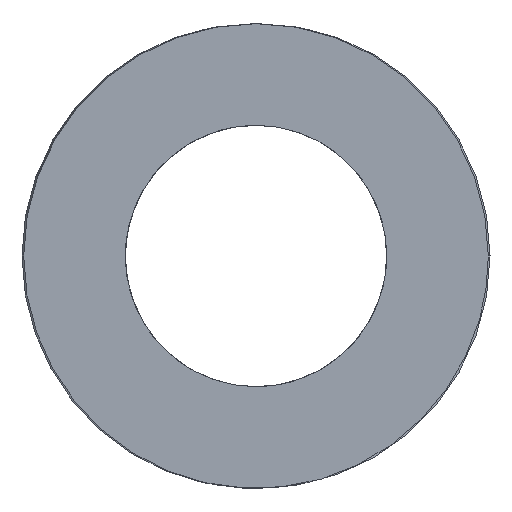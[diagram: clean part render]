
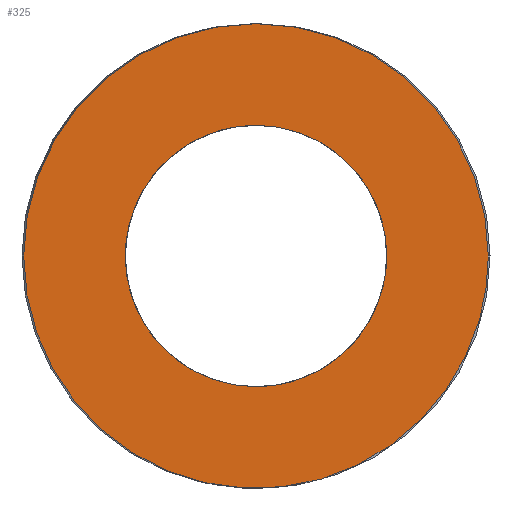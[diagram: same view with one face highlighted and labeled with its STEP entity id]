
A CAD part, left-side view. The second image highlights one B-rep face of the part: STEP entity #325.
In plain terms, the highlighted planar face has unit normal (-1, 0, 0).
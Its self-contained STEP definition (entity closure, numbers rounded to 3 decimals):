
#63=CARTESIAN_POINT('Vertex',(0.,18.75,0.)) ;
#89=CARTESIAN_POINT('Vertex',(0.,-18.75,0.)) ;
#93=CARTESIAN_POINT('Control Point',(0.,18.75,0.)) ;
#94=CARTESIAN_POINT('Control Point',(0.,18.75,-2.945)) ;
#95=CARTESIAN_POINT('Control Point',(0.,18.172,-5.89)) ;
#96=CARTESIAN_POINT('Control Point',(0.,17.015,-8.684)) ;
#97=CARTESIAN_POINT('Control Point',(0.,13.667,-13.667)) ;
#98=CARTESIAN_POINT('Control Point',(0.,8.684,-17.015)) ;
#99=CARTESIAN_POINT('Control Point',(0.,5.89,-18.172)) ;
#100=CARTESIAN_POINT('Control Point',(0.,0.,-19.328)) ;
#101=CARTESIAN_POINT('Control Point',(0.,-5.89,-18.172)) ;
#102=CARTESIAN_POINT('Control Point',(0.,-8.684,-17.015)) ;
#103=CARTESIAN_POINT('Control Point',(0.,-13.667,-13.667)) ;
#104=CARTESIAN_POINT('Control Point',(0.,-17.015,-8.684)) ;
#105=CARTESIAN_POINT('Control Point',(0.,-18.172,-5.89)) ;
#106=CARTESIAN_POINT('Control Point',(0.,-18.75,-2.945)) ;
#107=CARTESIAN_POINT('Control Point',(0.,-18.75,0.)) ;
#121=CARTESIAN_POINT('Axis2P3D Location',(0.,0.,0.)) ;
#256=CARTESIAN_POINT('Axis2P3D Location',(0.,9.375,0.)) ;
#266=CARTESIAN_POINT('Control Point',(0.,0.,-10.55)) ;
#267=CARTESIAN_POINT('Control Point',(0.,0.955,-10.55)) ;
#268=CARTESIAN_POINT('Control Point',(0.,1.909,-10.442)) ;
#269=CARTESIAN_POINT('Control Point',(0.,2.848,-10.226)) ;
#270=CARTESIAN_POINT('Control Point',(0.,4.66,-9.585)) ;
#271=CARTESIAN_POINT('Control Point',(0.,6.283,-8.556)) ;
#272=CARTESIAN_POINT('Control Point',(0.,7.032,-7.952)) ;
#273=CARTESIAN_POINT('Control Point',(0.,8.381,-6.584)) ;
#274=CARTESIAN_POINT('Control Point',(0.,9.391,-4.949)) ;
#275=CARTESIAN_POINT('Control Point',(0.,9.801,-4.077)) ;
#276=CARTESIAN_POINT('Control Point',(0.,10.416,-2.257)) ;
#277=CARTESIAN_POINT('Control Point',(0.,10.61,-0.345)) ;
#278=CARTESIAN_POINT('Control Point',(0.,10.597,0.618)) ;
#279=CARTESIAN_POINT('Control Point',(0.,10.355,2.524)) ;
#280=CARTESIAN_POINT('Control Point',(0.,9.693,4.328)) ;
#281=CARTESIAN_POINT('Control Point',(0.,9.26,5.189)) ;
#282=CARTESIAN_POINT('Control Point',(0.,8.209,6.797)) ;
#283=CARTESIAN_POINT('Control Point',(0.,6.825,8.13)) ;
#284=CARTESIAN_POINT('Control Point',(0.,6.06,8.715)) ;
#285=CARTESIAN_POINT('Control Point',(0.,4.458,9.674)) ;
#286=CARTESIAN_POINT('Control Point',(0.,2.687,10.262)) ;
#287=CARTESIAN_POINT('Control Point',(0.,1.801,10.454)) ;
#288=CARTESIAN_POINT('Control Point',(0.,0.9,10.55)) ;
#289=CARTESIAN_POINT('Control Point',(0.,0.,10.55)) ;
#290=CARTESIAN_POINT('Vertex',(0.,0.,-10.55)) ;
#292=CARTESIAN_POINT('Vertex',(0.,0.,10.55)) ;
#296=CARTESIAN_POINT('Control Point',(0.,0.,10.55)) ;
#297=CARTESIAN_POINT('Control Point',(0.,-0.955,10.55)) ;
#298=CARTESIAN_POINT('Control Point',(0.,-1.909,10.442)) ;
#299=CARTESIAN_POINT('Control Point',(0.,-2.848,10.226)) ;
#300=CARTESIAN_POINT('Control Point',(0.,-4.66,9.585)) ;
#301=CARTESIAN_POINT('Control Point',(0.,-6.283,8.556)) ;
#302=CARTESIAN_POINT('Control Point',(0.,-7.032,7.952)) ;
#303=CARTESIAN_POINT('Control Point',(0.,-8.381,6.584)) ;
#304=CARTESIAN_POINT('Control Point',(0.,-9.391,4.949)) ;
#305=CARTESIAN_POINT('Control Point',(0.,-9.801,4.077)) ;
#306=CARTESIAN_POINT('Control Point',(0.,-10.416,2.257)) ;
#307=CARTESIAN_POINT('Control Point',(0.,-10.61,0.345)) ;
#308=CARTESIAN_POINT('Control Point',(0.,-10.597,-0.618)) ;
#309=CARTESIAN_POINT('Control Point',(0.,-10.355,-2.524)) ;
#310=CARTESIAN_POINT('Control Point',(0.,-9.693,-4.328)) ;
#311=CARTESIAN_POINT('Control Point',(0.,-9.26,-5.189)) ;
#312=CARTESIAN_POINT('Control Point',(0.,-8.209,-6.797)) ;
#313=CARTESIAN_POINT('Control Point',(0.,-6.825,-8.13)) ;
#314=CARTESIAN_POINT('Control Point',(0.,-6.06,-8.715)) ;
#315=CARTESIAN_POINT('Control Point',(0.,-4.458,-9.674)) ;
#316=CARTESIAN_POINT('Control Point',(0.,-2.687,-10.262)) ;
#317=CARTESIAN_POINT('Control Point',(0.,-1.801,-10.454)) ;
#318=CARTESIAN_POINT('Control Point',(0.,-0.9,-10.55)) ;
#319=CARTESIAN_POINT('Control Point',(0.,0.,-10.55)) ;
#122=DIRECTION('Axis2P3D Direction',(1.,-0.,0.)) ;
#257=DIRECTION('Axis2P3D Direction',(-1.,0.,0.)) ;
#258=DIRECTION('Axis2P3D XDirection',(0.,1.,0.)) ;
#123=AXIS2_PLACEMENT_3D('Circle Axis2P3D',#121,#122,$) ;
#259=AXIS2_PLACEMENT_3D('Plane Axis2P3D',#256,#257,#258) ;
#262=ORIENTED_EDGE('',*,*,#108,.T.) ;
#263=ORIENTED_EDGE('',*,*,#125,.T.) ;
#322=ORIENTED_EDGE('',*,*,#294,.T.) ;
#323=ORIENTED_EDGE('',*,*,#320,.T.) ;
#324=FACE_BOUND('',#321,.T.) ;
#325=ADVANCED_FACE('392-B40-305',(#264,#324),#260,.T.) ;
#92=B_SPLINE_CURVE_WITH_KNOTS('',5,(#93,#94,#95,#96,#97,#98,#99,#100,#101,#102,#103,#104,#105,#106,#107),.UNSPECIFIED.,.F.,.U.,(6,3,3,3,6),(-29.452,-14.726,0.,14.726,29.452),.UNSPECIFIED.) ;
#265=B_SPLINE_CURVE_WITH_KNOTS('',5,(#266,#267,#268,#269,#270,#271,#272,#273,#274,#275,#276,#277,#278,#279,#280,#281,#282,#283,#284,#285,#286,#287,#288,#289),.UNSPECIFIED.,.F.,.U.,(6,3,3,3,3,3,3,6),(0.,6.751,13.502,20.253,27.004,33.755,40.506,46.872),.UNSPECIFIED.) ;
#295=B_SPLINE_CURVE_WITH_KNOTS('',5,(#296,#297,#298,#299,#300,#301,#302,#303,#304,#305,#306,#307,#308,#309,#310,#311,#312,#313,#314,#315,#316,#317,#318,#319),.UNSPECIFIED.,.F.,.U.,(6,3,3,3,3,3,3,6),(0.,6.751,13.502,20.253,27.004,33.755,40.506,46.872),.UNSPECIFIED.) ;
#124=CIRCLE('generated circle',#123,18.75) ;
#108=EDGE_CURVE('',#64,#90,#92,.T.) ;
#125=EDGE_CURVE('',#90,#64,#124,.F.) ;
#294=EDGE_CURVE('',#291,#293,#265,.T.) ;
#320=EDGE_CURVE('',#293,#291,#295,.T.) ;
#261=EDGE_LOOP('',(#262,#263)) ;
#321=EDGE_LOOP('',(#322,#323)) ;
#264=FACE_OUTER_BOUND('',#261,.T.) ;
#260=PLANE('Plane',#259) ;
#64=VERTEX_POINT('',#63) ;
#90=VERTEX_POINT('',#89) ;
#291=VERTEX_POINT('',#290) ;
#293=VERTEX_POINT('',#292) ;
